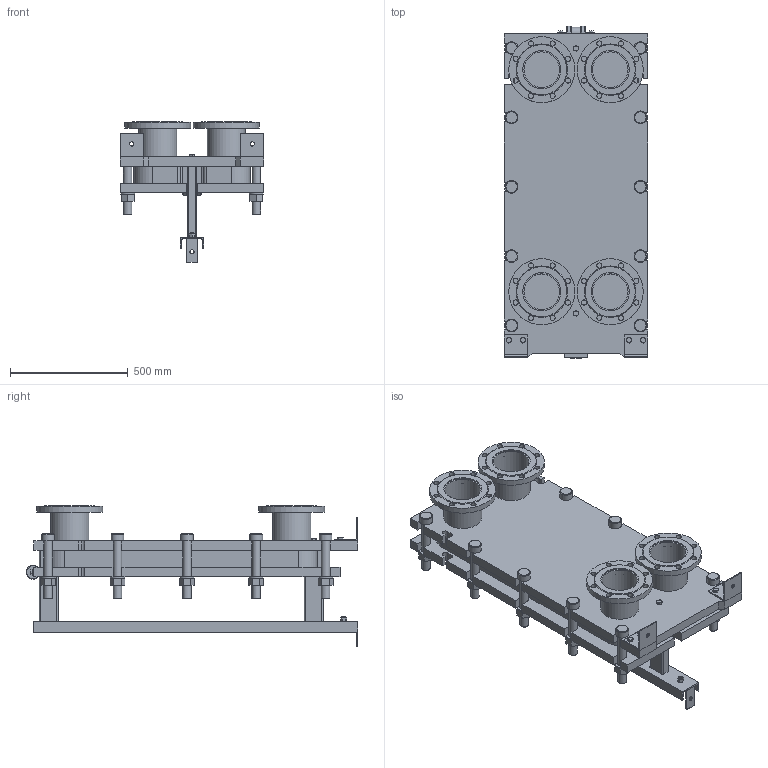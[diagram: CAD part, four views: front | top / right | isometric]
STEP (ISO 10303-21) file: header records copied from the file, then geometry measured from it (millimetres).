
FILE_DESCRIPTION(/* description */ (''),/* implementation_level */ '2;1');
FILE_NAME(/* name */ 'C:\Users\zhuro\Desktop\ENCO\TO\ЭН-041\ЭН-0,5-041-21-1.stp',/* time_stamp */ '2022-06-06T10:49:49+03:00',/* author */ ('zhuro'),/* organization */ (''),/* preprocessor_version */ 'ST-DEVELOPER v18.1',/* originating_system */ 'Autodesk Inventor 2022',/* authorisation */ '');
FILE_SCHEMA (('AUTOMOTIVE_DESIGN { 1 0 10303 214 3 1 1 }'));
Length unit declared in the file: millimetre
Products named in the file (1): ЭН-0,5-041-21-1
Bounding box: 610 x 1406.5 x 597.5 mm (x, y, z)
Volume: 115670200.6 mm3; surface area: 7282625.9 mm2
Topology: 52 solids, 52 shells, 711 faces, 1696 edges, 1094 vertices
Faces by surface type: plane 487, cylinder 177, cone 41, torus 6
Full cylindrical faces by diameter (mm): 8 x4, 10 x2, 16 x8, 18 x3, 22 x32, 36 x24, 50 x1, 54 x10, 60 x12, 151 x4, 161 x8, 280 x4
Entity records: 22667 total; most frequent: CARTESIAN_POINT 5230, DIRECTION 3644, ORIENTED_EDGE 3392, EDGE_CURVE 1696, AXIS2_PLACEMENT_3D 1272, LINE 1100, VECTOR 1100, VERTEX_POINT 1094
